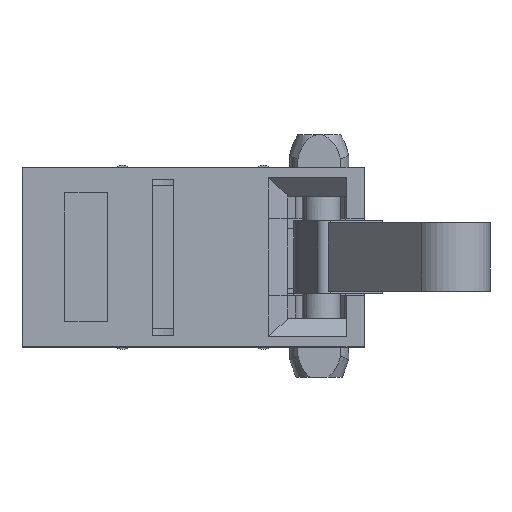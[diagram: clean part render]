
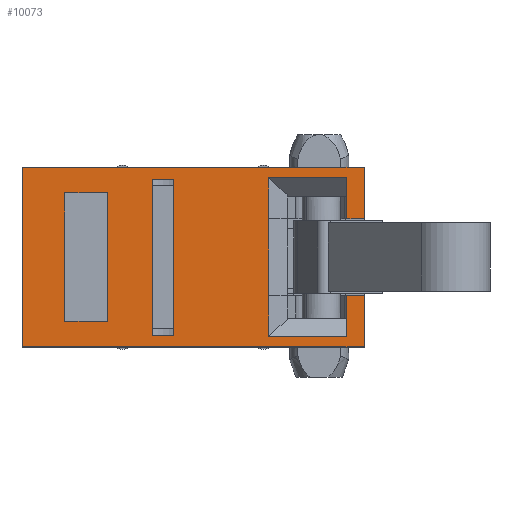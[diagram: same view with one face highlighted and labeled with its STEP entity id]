
A CAD part, top view. The second image highlights one B-rep face of the part: STEP entity #10073.
In plain terms, the highlighted planar face has unit normal (0, 0, 1).
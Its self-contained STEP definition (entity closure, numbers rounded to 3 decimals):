
#66=DIRECTION('',(1.,0.,0.));
#67=VECTOR('',#66,3.3);
#68=CARTESIAN_POINT('',(-4.,0.,3.));
#69=LINE('',#68,#67);
#85=DIRECTION('',(1.,0.,0.));
#86=VECTOR('',#85,4.7);
#87=CARTESIAN_POINT('',(-0.7,0.,3.));
#88=LINE('',#87,#86);
#2301=DIRECTION('',(1.,0.,0.));
#2302=VECTOR('',#2301,4.7);
#2303=CARTESIAN_POINT('',(-0.7,4.2,
3.));
#2304=LINE('',#2303,#2302);
#2320=DIRECTION('',(1.,0.,0.));
#2321=VECTOR('',#2320,3.3);
#2322=CARTESIAN_POINT('',(-4.,4.2,3.));
#2323=LINE('',#2322,#2321);
#2506=DIRECTION('',(-1.,0.,0.));
#2507=VECTOR('',#2506,1.829);
#2508=CARTESIAN_POINT('',(3.6,0.245,3.));
#2509=LINE('',#2508,#2507);
#2522=DIRECTION('',(0.,-1.,0.));
#2523=VECTOR('',#2522,3.);
#2524=CARTESIAN_POINT('',(-3.,3.6,3.));
#2525=LINE('',#2524,#2523);
#2526=DIRECTION('',(1.,0.,0.));
#2527=VECTOR('',#2526,1.);
#2528=CARTESIAN_POINT('',(-3.,0.6,
3.));
#2529=LINE('',#2528,#2527);
#2530=DIRECTION('',(0.,1.,0.));
#2531=VECTOR('',#2530,3.);
#2532=CARTESIAN_POINT('',(-2.,0.6,
3.));
#2533=LINE('',#2532,#2531);
#2534=DIRECTION('',(-1.,0.,0.));
#2535=VECTOR('',#2534,1.);
#2536=CARTESIAN_POINT('',(-2.,3.6,3.));
#2537=LINE('',#2536,#2535);
#2538=DIRECTION('',(0.,1.,0.));
#2539=VECTOR('',#2538,4.2);
#2540=CARTESIAN_POINT('',(-4.,0.,3.));
#2541=LINE('',#2540,#2539);
#2542=DIRECTION('',(-1.,0.,0.));
#2543=VECTOR('',#2542,0.4);
#2544=CARTESIAN_POINT('',(4.,3.,3.));
#2545=LINE('',#2544,#2543);
#2546=DIRECTION('',(-1.,0.,0.));
#2547=VECTOR('',#2546,0.4);
#2548=CARTESIAN_POINT('',(4.,1.2,3.));
#2549=LINE('',#2548,#2547);
#2550=DIRECTION('',(1.,0.,0.));
#2551=VECTOR('',#2550,0.25);
#2552=CARTESIAN_POINT('',(-0.95,0.275,
3.));
#2553=LINE('',#2552,#2551);
#2554=DIRECTION('',(1.,0.,0.));
#2555=VECTOR('',#2554,0.25);
#2556=CARTESIAN_POINT('',(-0.7,0.275,
3.));
#2557=LINE('',#2556,#2555);
#2558=DIRECTION('',(0.,1.,0.));
#2559=VECTOR('',#2558,3.65);
#2560=CARTESIAN_POINT('',(-0.45,0.275,
3.));
#2561=LINE('',#2560,#2559);
#2562=DIRECTION('',(-1.,0.,0.));
#2563=VECTOR('',#2562,0.25);
#2564=CARTESIAN_POINT('',(-0.45,3.925,
3.));
#2565=LINE('',#2564,#2563);
#2566=DIRECTION('',(-1.,0.,0.));
#2567=VECTOR('',#2566,0.25);
#2568=CARTESIAN_POINT('',(-0.7,3.925,
3.));
#2569=LINE('',#2568,#2567);
#2570=DIRECTION('',(0.,-1.,0.));
#2571=VECTOR('',#2570,3.65);
#2572=CARTESIAN_POINT('',(-0.95,3.925,
3.));
#2573=LINE('',#2572,#2571);
#2796=DIRECTION('',(0.,1.,0.));
#2797=VECTOR('',#2796,1.2);
#2798=CARTESIAN_POINT('',(4.,3.,3.));
#2799=LINE('',#2798,#2797);
#2800=DIRECTION('',(0.,1.,0.));
#2801=VECTOR('',#2800,1.2);
#2802=CARTESIAN_POINT('',(4.,0.,3.));
#2803=LINE('',#2802,#2801);
#2853=DIRECTION('',(0.,-1.,0.));
#2854=VECTOR('',#2853,0.955);
#2855=CARTESIAN_POINT('',(1.771,1.2,3.));
#2856=LINE('',#2855,#2854);
#2873=DIRECTION('',(0.,-1.,0.));
#2874=VECTOR('',#2873,1.8);
#2875=CARTESIAN_POINT('',(1.771,3.,3.));
#2876=LINE('',#2875,#2874);
#2922=DIRECTION('',(0.,-1.,0.));
#2923=VECTOR('',#2922,0.955);
#2924=CARTESIAN_POINT('',(1.771,3.955,3.));
#2925=LINE('',#2924,#2923);
#2934=DIRECTION('',(1.,0.,0.));
#2935=VECTOR('',#2934,1.829);
#2936=CARTESIAN_POINT('',(1.771,3.955,3.));
#2937=LINE('',#2936,#2935);
#2946=DIRECTION('',(0.,-1.,0.));
#2947=VECTOR('',#2946,0.955);
#2948=CARTESIAN_POINT('',(3.6,3.955,3.));
#2949=LINE('',#2948,#2947);
#3054=DIRECTION('',(0.,-1.,0.));
#3055=VECTOR('',#3054,0.955);
#3056=CARTESIAN_POINT('',(3.6,1.2,3.));
#3057=LINE('',#3056,#3055);
#4912=CARTESIAN_POINT('',(-4.,0.,3.));
#4913=VERTEX_POINT('',#4912);
#4914=CARTESIAN_POINT('',(4.,0.,3.));
#4916=VERTEX_POINT('',#4914);
#4936=CARTESIAN_POINT('',(-4.,4.2,3.));
#4937=VERTEX_POINT('',#4936);
#4938=CARTESIAN_POINT('',(4.,4.2,3.));
#4940=VERTEX_POINT('',#4938);
#5054=CARTESIAN_POINT('',(4.,3.,3.));
#5055=VERTEX_POINT('',#5054);
#5056=CARTESIAN_POINT('',(4.,1.2,3.));
#5057=VERTEX_POINT('',#5056);
#5078=CARTESIAN_POINT('',(3.6,3.,3.));
#5079=VERTEX_POINT('',#5078);
#5090=CARTESIAN_POINT('',(3.6,1.2,3.));
#5092=VERTEX_POINT('',#5090);
#5106=CARTESIAN_POINT('',(3.6,3.955,3.));
#5107=VERTEX_POINT('',#5106);
#5108=CARTESIAN_POINT('',(3.6,0.245,3.));
#5109=VERTEX_POINT('',#5108);
#5110=CARTESIAN_POINT('',(1.771,1.2,3.));
#5111=CARTESIAN_POINT('',(1.771,0.245,3.));
#5112=VERTEX_POINT('',#5110);
#5113=VERTEX_POINT('',#5111);
#5120=CARTESIAN_POINT('',(1.771,3.,3.));
#5121=VERTEX_POINT('',#5120);
#5124=CARTESIAN_POINT('',(1.771,3.955,3.));
#5125=VERTEX_POINT('',#5124);
#5134=CARTESIAN_POINT('',(-3.,3.6,3.));
#5135=CARTESIAN_POINT('',(-3.,0.6,
3.));
#5136=VERTEX_POINT('',#5134);
#5137=VERTEX_POINT('',#5135);
#5138=CARTESIAN_POINT('',(-2.,0.6,
3.));
#5139=VERTEX_POINT('',#5138);
#5140=CARTESIAN_POINT('',(-2.,3.6,3.));
#5141=VERTEX_POINT('',#5140);
#5162=CARTESIAN_POINT('',(-0.7,4.2,
3.));
#5163=VERTEX_POINT('',#5162);
#5177=CARTESIAN_POINT('',(-0.7,0.,3.));
#5179=VERTEX_POINT('',#5177);
#5190=CARTESIAN_POINT('',(-0.95,3.925,
3.));
#5191=CARTESIAN_POINT('',(-0.95,0.275,
3.));
#5192=VERTEX_POINT('',#5190);
#5193=VERTEX_POINT('',#5191);
#5194=CARTESIAN_POINT('',(-0.45,0.275,
3.));
#5195=CARTESIAN_POINT('',(-0.45,3.925,
3.));
#5196=VERTEX_POINT('',#5194);
#5197=VERTEX_POINT('',#5195);
#5210=CARTESIAN_POINT('',(-0.7,3.925,
3.));
#5211=VERTEX_POINT('',#5210);
#5221=CARTESIAN_POINT('',(-0.7,0.275,
3.));
#5223=VERTEX_POINT('',#5221);
#10015=CARTESIAN_POINT('',(-4.,0.,3.));
#10016=DIRECTION('',(0.,0.,1.));
#10017=DIRECTION('',(1.,0.,0.));
#10018=AXIS2_PLACEMENT_3D('',#10015,#10016,#10017);
#10019=PLANE('',#10018);
#10020=ORIENTED_EDGE('',*,*,#6533,.F.);
#10022=ORIENTED_EDGE('',*,*,#10021,.T.);
#10023=ORIENTED_EDGE('',*,*,#9715,.T.);
#10024=ORIENTED_EDGE('',*,*,#9707,.T.);
#10026=ORIENTED_EDGE('',*,*,#10025,.F.);
#10028=ORIENTED_EDGE('',*,*,#10027,.T.);
#10030=ORIENTED_EDGE('',*,*,#10029,.F.);
#10032=ORIENTED_EDGE('',*,*,#10031,.F.);
#10034=ORIENTED_EDGE('',*,*,#10033,.T.);
#10036=ORIENTED_EDGE('',*,*,#10035,.T.);
#10038=ORIENTED_EDGE('',*,*,#10037,.T.);
#10039=ORIENTED_EDGE('',*,*,#10003,.F.);
#10041=ORIENTED_EDGE('',*,*,#10040,.F.);
#10043=ORIENTED_EDGE('',*,*,#10042,.F.);
#10045=ORIENTED_EDGE('',*,*,#10044,.F.);
#10046=ORIENTED_EDGE('',*,*,#6541,.F.);
#10047=EDGE_LOOP('',(#10020,#10022,#10023,#10024,#10026,#10028,#10030,#10032,
#10034,#10036,#10038,#10039,#10041,#10043,#10045,#10046));
#10048=FACE_OUTER_BOUND('',#10047,.F.);
#10050=ORIENTED_EDGE('',*,*,#10049,.T.);
#10052=ORIENTED_EDGE('',*,*,#10051,.T.);
#10054=ORIENTED_EDGE('',*,*,#10053,.T.);
#10056=ORIENTED_EDGE('',*,*,#10055,.T.);
#10057=EDGE_LOOP('',(#10050,#10052,#10054,#10056));
#10058=FACE_BOUND('',#10057,.F.);
#10060=ORIENTED_EDGE('',*,*,#10059,.T.);
#10062=ORIENTED_EDGE('',*,*,#10061,.T.);
#10064=ORIENTED_EDGE('',*,*,#10063,.T.);
#10066=ORIENTED_EDGE('',*,*,#10065,.T.);
#10068=ORIENTED_EDGE('',*,*,#10067,.T.);
#10070=ORIENTED_EDGE('',*,*,#10069,.T.);
#10071=EDGE_LOOP('',(#10060,#10062,#10064,#10066,#10068,#10070));
#10072=FACE_BOUND('',#10071,.F.);
#6533=EDGE_CURVE('',#4913,#5179,#69,.T.);
#6541=EDGE_CURVE('',#5179,#4916,#88,.T.);
#9707=EDGE_CURVE('',#5163,#4940,#2304,.T.);
#9715=EDGE_CURVE('',#4937,#5163,#2323,.T.);
#10003=EDGE_CURVE('',#5109,#5113,#2509,.T.);
#10021=EDGE_CURVE('',#4913,#4937,#2541,.T.);
#10025=EDGE_CURVE('',#5055,#4940,#2799,.T.);
#10027=EDGE_CURVE('',#5055,#5079,#2545,.T.);
#10029=EDGE_CURVE('',#5107,#5079,#2949,.T.);
#10031=EDGE_CURVE('',#5125,#5107,#2937,.T.);
#10033=EDGE_CURVE('',#5125,#5121,#2925,.T.);
#10035=EDGE_CURVE('',#5121,#5112,#2876,.T.);
#10037=EDGE_CURVE('',#5112,#5113,#2856,.T.);
#10040=EDGE_CURVE('',#5092,#5109,#3057,.T.);
#10042=EDGE_CURVE('',#5057,#5092,#2549,.T.);
#10044=EDGE_CURVE('',#4916,#5057,#2803,.T.);
#10049=EDGE_CURVE('',#5136,#5137,#2525,.T.);
#10051=EDGE_CURVE('',#5137,#5139,#2529,.T.);
#10053=EDGE_CURVE('',#5139,#5141,#2533,.T.);
#10055=EDGE_CURVE('',#5141,#5136,#2537,.T.);
#10059=EDGE_CURVE('',#5193,#5223,#2553,.T.);
#10061=EDGE_CURVE('',#5223,#5196,#2557,.T.);
#10063=EDGE_CURVE('',#5196,#5197,#2561,.T.);
#10065=EDGE_CURVE('',#5197,#5211,#2565,.T.);
#10067=EDGE_CURVE('',#5211,#5192,#2569,.T.);
#10069=EDGE_CURVE('',#5192,#5193,#2573,.T.);
#10073=ADVANCED_FACE('',(#10048,#10058,#10072),#10019,.T.);
